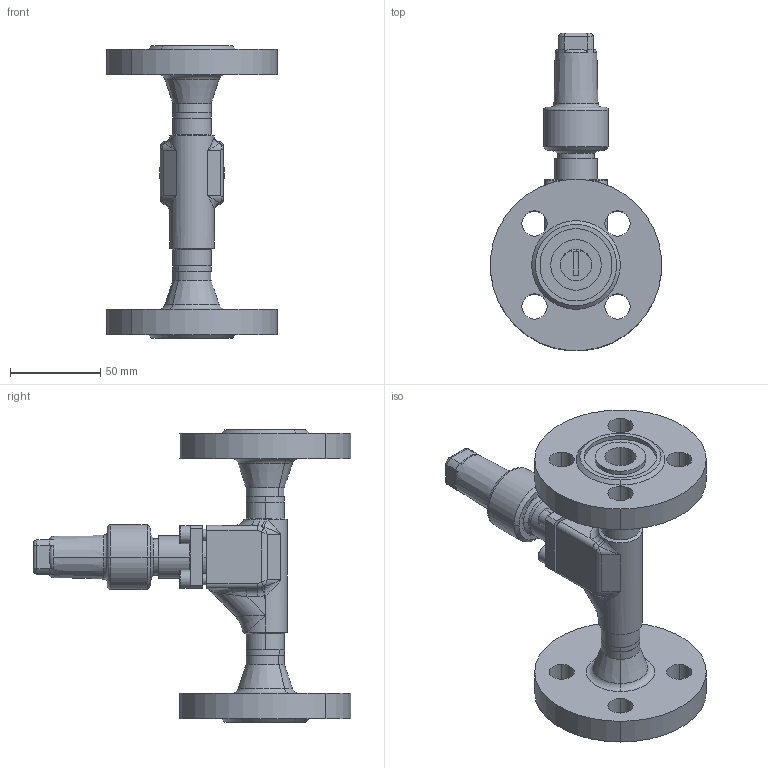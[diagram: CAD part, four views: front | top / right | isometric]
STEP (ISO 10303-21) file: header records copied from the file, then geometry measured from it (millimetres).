
FILE_DESCRIPTION (( 'STEP AP214' ), '1' );
FILE_NAME ('AVR96320-DN015_DIN-FL-N_PS40.STEP', '2006-05-02T07:55:12', ( 'Herr Grams' ), ( 'AWP GmbH' ), 'SwSTEP 2.0', 'SolidWorks 2002296', '' );
FILE_SCHEMA (( 'AUTOMOTIVE_DESIGN' ));
Length unit declared in the file: millimetre
Products named in the file (10): AVR96320-DN015_DIN-FL-N_PS40; AVR96300E10_Deck+Schr-DN6-15_Standard; Deckel96300E10-DN6-15_PS40_Standard; Zylinderschraube-DIN912_M 6x 18; Geh-kpl96320E10-DN15_PS40_DIN-FL_Standard; Gehäuse96300E10-DN15_PS40_R1_Standard; Flansch-DIN2635-Nut_PS40_DIN-Flansch-DN015_PS40-Nut; bead963-DN015-2_Standard; bead963-DN015-1_Standard; Kappe96300E10_DN6-20_Standard
Assembly tree (13 placements, depth 3):
  AVR96320-DN015_DIN-FL-N_PS40
    Geh-kpl96320E10-DN15_PS40_DIN-FL_Standard
      Flansch-DIN2635-Nut_PS40_DIN-Flansch-DN015_PS40-Nut  x2
      Gehäuse96300E10-DN15_PS40_R1_Standard
      bead963-DN015-1_Standard
      bead963-DN015-2_Standard
    AVR96300E10_Deck+Schr-DN6-15_Standard
      Zylinderschraube-DIN912_M 6x 18  x4
      Deckel96300E10-DN6-15_PS40_Standard
    Kappe96300E10_DN6-20_Standard
Bounding box: 94.64 x 175.82 x 162 mm (x, y, z)
Volume: 293984.2 mm3; surface area: 83691.9 mm2
Topology: 11 solids, 11 shells, 343 faces, 791 edges, 485 vertices
Faces by surface type: cylinder 129, plane 100, cone 49, bspline 37, torus 28
Entity records: 21725 total; most frequent: CARTESIAN_POINT 15226, ORIENTED_EDGE 1194, DIRECTION 1180, EDGE_CURVE 597, AXIS2_PLACEMENT_3D 493, VERTEX_POINT 367, EDGE_LOOP 296, FACE_OUTER_BOUND 257
